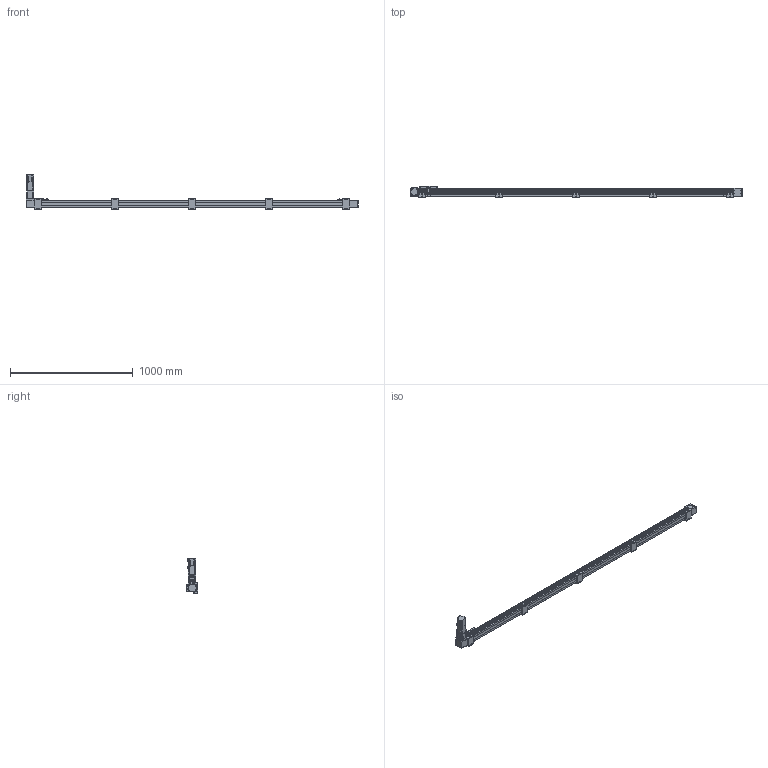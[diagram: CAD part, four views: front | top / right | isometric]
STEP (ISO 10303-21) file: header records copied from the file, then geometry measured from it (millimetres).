
FILE_DESCRIPTION(/* description */ ('STEP AP203'),/* implementation_level */ '2;1');
FILE_NAME(/* name */ 'SK60-P13-S2400-BL-T40-C1-N(0)',/* time_stamp */ '2023-04-06T03:37:55+02:00',/* author */ ('License CC BY-ND 4.0'),/* organization */ ('CADENAS'),/* preprocessor_version */ 'ST-DEVELOPER v19.3',/* originating_system */ 'PARTsolutions',/* authorisation */ ' ');
FILE_SCHEMA (('CONFIG_CONTROL_DESIGN'));
Length unit declared in the file: millimetre
Products named in the file (11): SK60-P13-S2400-BL-T40-C1-N(0); PSC140-sensor; SK60-S450_seat; SK60-S450-BL-C1_slider; SK60_body3; SK60_body6; SK60-BL_body2; T40-p1; SK60_body5; SK60_body4; SK60-S2400-BL-C1_body
Assembly tree (20 placements, depth 2):
  SK60-P13-S2400-BL-T40-C1-N(0)
    PSC140-sensor  x3
    SK60-S450_seat  x5
    SK60-S450-BL-C1_slider
    SK60_body3  x3
    SK60_body6  x2
    SK60-BL_body2  x2
    T40-p1
    SK60_body5
    SK60_body4
    SK60-S2400-BL-C1_body
Bounding box: 2700 x 90 x 278.2 mm (x, y, z)
Volume: 9757356.5 mm3; surface area: 1193038.4 mm2
Topology: 20 solids, 24 shells, 966 faces, 2403 edges, 1586 vertices
Faces by surface type: plane 616, cylinder 314, cone 34, torus 2
Full cylindrical faces by diameter (mm): 2.8 x3, 3.3 x4, 4.2 x8, 4.5 x26, 4.6 x3, 4.917 x28, 5 x2, 5.478 x4, 5.5 x31, 6.5 x10, 8 x4, 8.5 x4, 9.988 x4, 10 x20, 13.556 x1, 14 x1, 14.586 x1, 19.692 x1, 38.432 x2, 43 x1, 44 x3, 47 x2, 50 x2
Entity records: 19395 total; most frequent: DIRECTION 3298, CARTESIAN_POINT 3292, ORIENTED_EDGE 3050, EDGE_CURVE 1525, AXIS2_PLACEMENT_3D 1103, LINE 1092, VECTOR 1092, VERTEX_POINT 1077
